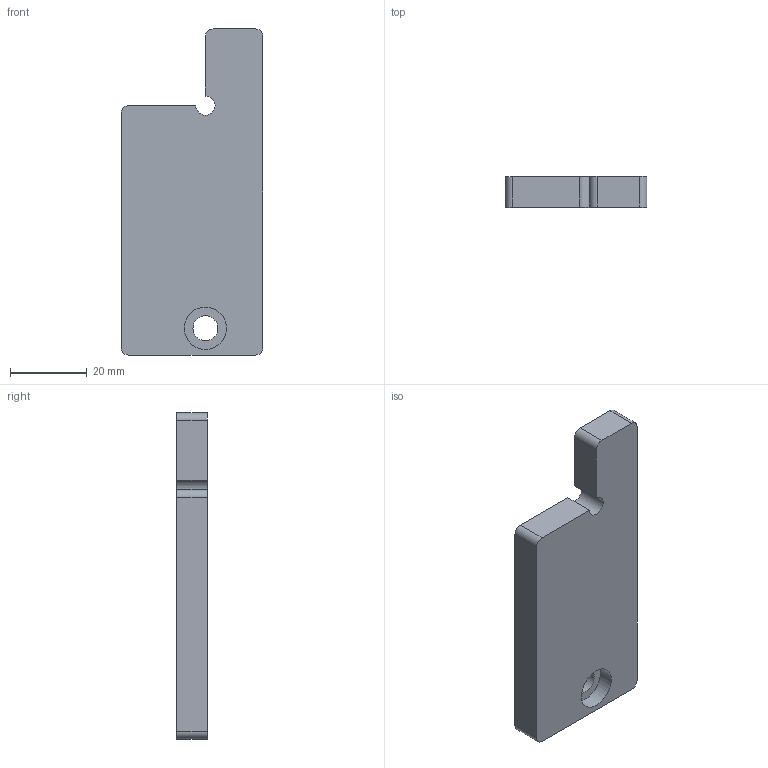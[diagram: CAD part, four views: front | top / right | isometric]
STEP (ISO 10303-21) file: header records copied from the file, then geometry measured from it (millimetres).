
FILE_DESCRIPTION(/* description */ (''),/* implementation_level */ '2;1');
FILE_NAME(/* name */ 'clas_left.stp',/* time_stamp */ '2026-05-06T19:40:34+08:00',/* author */ ('xuwenjie'),/* organization */ (''),/* preprocessor_version */ 'ST-DEVELOPER v20',/* originating_system */ 'Autodesk Inventor 2024',/* authorisation */ '');
FILE_SCHEMA (('AUTOMOTIVE_DESIGN { 1 0 10303 214 3 1 1 }'));
Length unit declared in the file: millimetre
Products named in the file (1): 零件1
Bounding box: 37 x 8 x 85 mm (x, y, z)
Volume: 20975 mm3; surface area: 7497.4 mm2
Topology: 1 solids, 1 shells, 17 faces, 42 edges, 28 vertices
Faces by surface type: plane 9, cylinder 8
Full cylindrical faces by diameter (mm): 6.5 x1, 11 x1
Entity records: 559 total; most frequent: DIRECTION 94, CARTESIAN_POINT 88, ORIENTED_EDGE 84, EDGE_CURVE 42, AXIS2_PLACEMENT_3D 34, VERTEX_POINT 28, LINE 26, VECTOR 26
